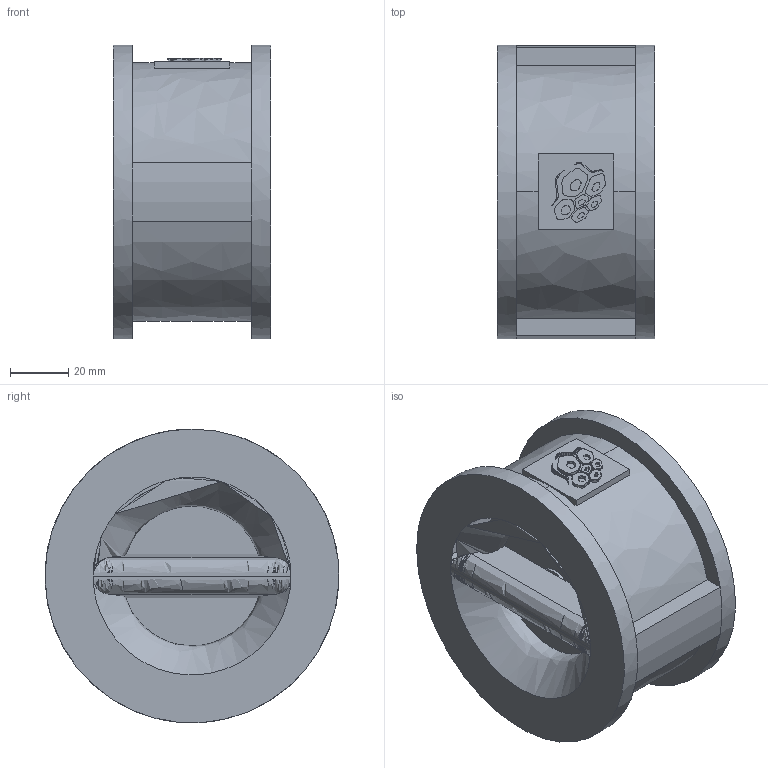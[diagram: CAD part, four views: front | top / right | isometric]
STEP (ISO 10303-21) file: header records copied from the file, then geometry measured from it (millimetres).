
FILE_DESCRIPTION(('STEP AP203'), '1');
FILE_NAME('3D_400_050_16', '', ('UNSPECIFIED'), ('UNSPECIFIED'), 'C3D Converter', 'C3D Toolkit', '');
FILE_SCHEMA(('CONFIG_CONTROL_DESIGN'));
Length unit declared in the file: millimetre
Bounding box: 54.01 x 101 x 101 mm (x, y, z)
Volume: 217784.9 mm3; surface area: 52046.2 mm2
Topology: 1 solids, 2 shells, 871 faces, 2540 edges, 1687 vertices
Faces by surface type: plane 845, bspline 18, cylinder 8
Full cylindrical faces by diameter (mm): 6.967 x1, 10.967 x1, 14.8 x1, 56 x1, 60 x1, 64 x1
Entity records: 40260 total; most frequent: CARTESIAN_POINT 10401, ORIENTED_EDGE 5054, DIRECTION 4197, EDGE_CURVE 2527, LINE 2461, VECTOR 2461, VERTEX_POINT 1687, EDGE_LOOP 902
